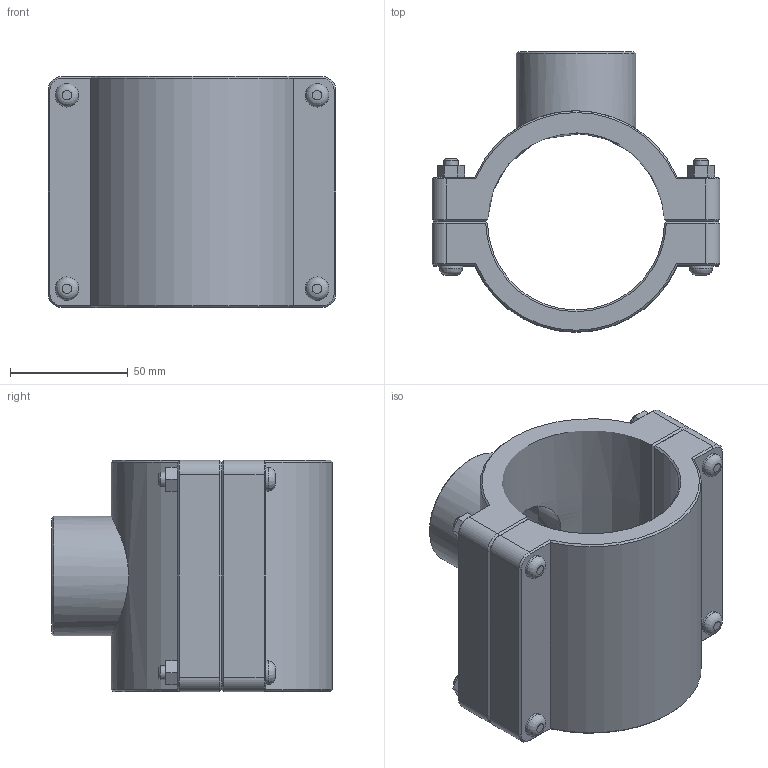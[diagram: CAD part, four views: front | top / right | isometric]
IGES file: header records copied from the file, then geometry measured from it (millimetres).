
Global section: file name: 160760075013_160860075013.ipt; native system: Autodesk Inventor 2015; preprocessor: unknown; author: KIM; date: 20170618.093516; units: millimetre
Bounding box: 122 x 118.88 x 98 mm (x, y, z)
Volume: 373604 mm3; surface area: 81320 mm2
Topology: 1 solids, 1 shells, 141 faces, 328 edges, 205 vertices
Faces by surface type: plane 82, cone 25, cylinder 23, revolution 11
Full cylindrical faces by diameter (mm): 6 x4, 10 x8, 50.638 x1
